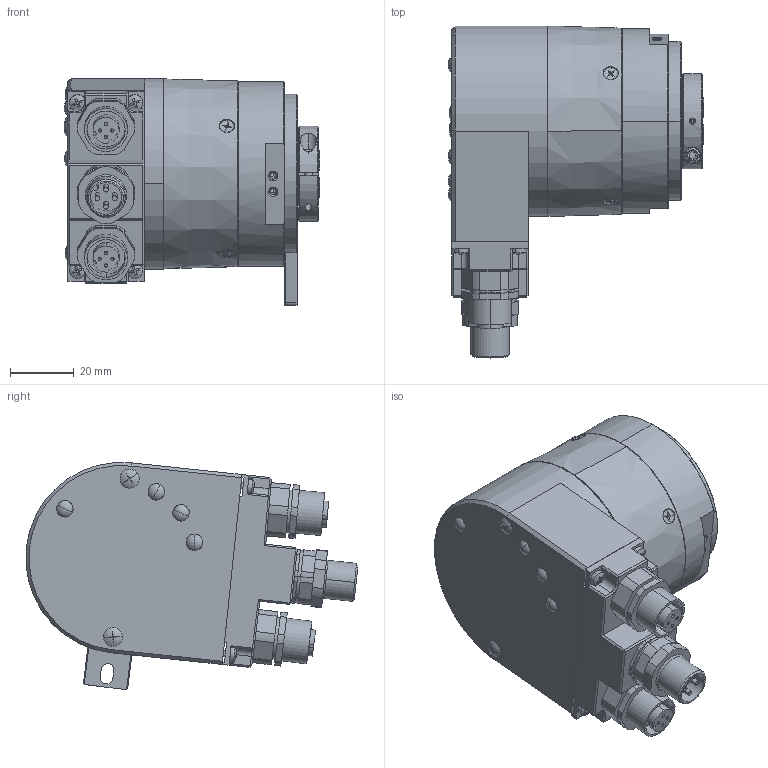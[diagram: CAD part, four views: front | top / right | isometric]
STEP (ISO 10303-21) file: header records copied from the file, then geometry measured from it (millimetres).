
FILE_DESCRIPTION (( 'STEP AP214' ), '1' );
FILE_NAME ('5878.14B2.XXXX.STEP', '2009-01-08T10:15:42', ( 'admin' ), ( 'Fritz Kübler GmbH' ), 'SwSTEP 2.0', 'SolidWorks 2008', '' );
FILE_SCHEMA (( 'AUTOMOTIVE_DESIGN' ));
Length unit declared in the file: millimetre
Products named in the file (1): 5878.14B2.XXXX
Bounding box: 80.4 x 104.3 x 71.26 mm (x, y, z)
Volume: 113416.5 mm3; surface area: 74773.8 mm2
Topology: 29 solids, 30 shells, 1474 faces, 3574 edges, 2231 vertices
Faces by surface type: plane 581, cylinder 532, cone 234, torus 90, sphere 20, bspline 17
Entity records: 61041 total; most frequent: CARTESIAN_POINT 9281, DIRECTION 7810, ORIENTED_EDGE 7060, EDGE_CURVE 3530, AXIS2_PLACEMENT_3D 3022, VERTEX_POINT 2231, VECTOR 1766, LINE 1766
